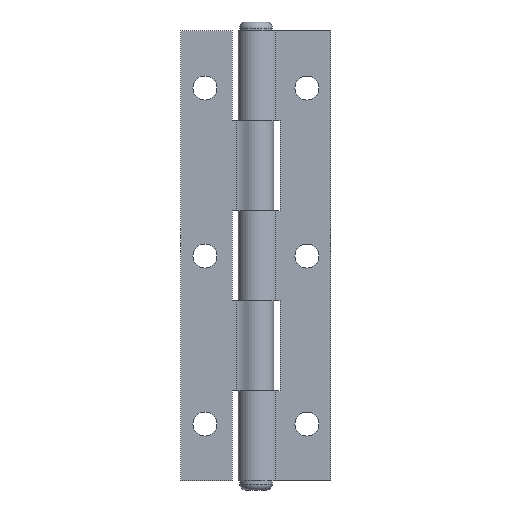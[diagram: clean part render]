
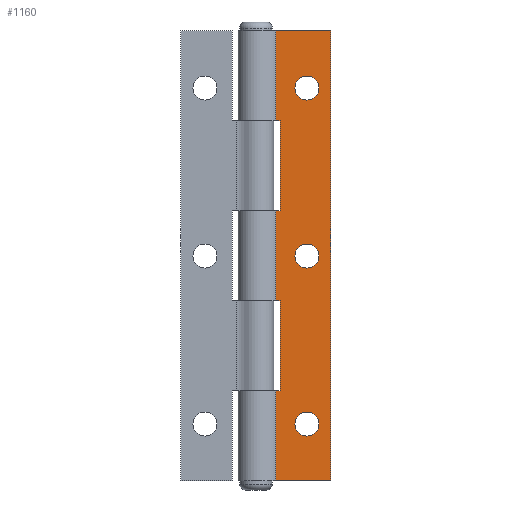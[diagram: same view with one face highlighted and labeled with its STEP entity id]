
A CAD part, front view. The second image highlights one B-rep face of the part: STEP entity #1160.
In plain terms, the highlighted planar face has unit normal (0, -1, 0).
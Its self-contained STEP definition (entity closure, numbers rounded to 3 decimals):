
#39=FACE_BOUND('',#203,.T.);
#40=FACE_BOUND('',#204,.T.);
#41=FACE_BOUND('',#205,.T.);
#121=FACE_OUTER_BOUND('',#202,.T.);
#202=EDGE_LOOP('',(#956,#957,#958,#959,#960,#961,#962,#963,#964,#965,#966,
#967));
#203=EDGE_LOOP('',(#968));
#204=EDGE_LOOP('',(#969));
#205=EDGE_LOOP('',(#970));
#297=CIRCLE('',#1275,2.);
#298=CIRCLE('',#1276,2.);
#299=CIRCLE('',#1277,2.);
#366=LINE('',#1848,#458);
#370=LINE('',#1864,#462);
#373=LINE('',#1870,#465);
#376=LINE('',#1885,#468);
#380=LINE('',#1902,#472);
#384=LINE('',#1917,#476);
#386=LINE('',#1920,#478);
#387=LINE('',#1922,#479);
#388=LINE('',#1924,#480);
#389=LINE('',#1926,#481);
#390=LINE('',#1928,#482);
#391=LINE('',#1929,#483);
#458=VECTOR('',#1488,0.683);
#462=VECTOR('',#1502,15.);
#465=VECTOR('',#1507,0.683);
#468=VECTOR('',#1520,0.683);
#472=VECTOR('',#1534,0.683);
#476=VECTOR('',#1548,15.);
#478=VECTOR('',#1552,15.);
#479=VECTOR('',#1553,15.);
#480=VECTOR('',#1554,9.183);
#481=VECTOR('',#1555,75.);
#482=VECTOR('',#1556,9.183);
#483=VECTOR('',#1557,15.);
#555=VERTEX_POINT('',#1846);
#556=VERTEX_POINT('',#1847);
#563=VERTEX_POINT('',#1863);
#565=VERTEX_POINT('',#1869);
#571=VERTEX_POINT('',#1883);
#572=VERTEX_POINT('',#1884);
#579=VERTEX_POINT('',#1900);
#580=VERTEX_POINT('',#1901);
#587=VERTEX_POINT('',#1921);
#588=VERTEX_POINT('',#1923);
#589=VERTEX_POINT('',#1925);
#590=VERTEX_POINT('',#1927);
#591=VERTEX_POINT('',#1930);
#592=VERTEX_POINT('',#1932);
#593=VERTEX_POINT('',#1934);
#689=EDGE_CURVE('',#555,#556,#366,.T.);
#697=EDGE_CURVE('',#563,#555,#370,.T.);
#700=EDGE_CURVE('',#565,#563,#373,.T.);
#707=EDGE_CURVE('',#571,#572,#376,.T.);
#715=EDGE_CURVE('',#579,#580,#380,.T.);
#723=EDGE_CURVE('',#580,#571,#384,.T.);
#725=EDGE_CURVE('',#556,#579,#386,.T.);
#726=EDGE_CURVE('',#572,#587,#387,.T.);
#727=EDGE_CURVE('',#587,#588,#388,.T.);
#728=EDGE_CURVE('',#588,#589,#389,.T.);
#729=EDGE_CURVE('',#589,#590,#390,.T.);
#730=EDGE_CURVE('',#590,#565,#391,.T.);
#731=EDGE_CURVE('',#591,#591,#297,.T.);
#732=EDGE_CURVE('',#592,#592,#298,.T.);
#733=EDGE_CURVE('',#593,#593,#299,.T.);
#956=ORIENTED_EDGE('',*,*,#700,.T.);
#957=ORIENTED_EDGE('',*,*,#697,.T.);
#958=ORIENTED_EDGE('',*,*,#689,.T.);
#959=ORIENTED_EDGE('',*,*,#725,.T.);
#960=ORIENTED_EDGE('',*,*,#715,.T.);
#961=ORIENTED_EDGE('',*,*,#723,.T.);
#962=ORIENTED_EDGE('',*,*,#707,.T.);
#963=ORIENTED_EDGE('',*,*,#726,.T.);
#964=ORIENTED_EDGE('',*,*,#727,.T.);
#965=ORIENTED_EDGE('',*,*,#728,.T.);
#966=ORIENTED_EDGE('',*,*,#729,.T.);
#967=ORIENTED_EDGE('',*,*,#730,.T.);
#968=ORIENTED_EDGE('',*,*,#731,.F.);
#969=ORIENTED_EDGE('',*,*,#732,.F.);
#970=ORIENTED_EDGE('',*,*,#733,.F.);
#1114=PLANE('',#1274);
#1160=ADVANCED_FACE('',(#121,#39,#40,#41),#1114,.F.);
#1274=AXIS2_PLACEMENT_3D('',#1919,#1550,#1551);
#1275=AXIS2_PLACEMENT_3D('',#1931,#1558,#1559);
#1276=AXIS2_PLACEMENT_3D('',#1933,#1560,#1561);
#1277=AXIS2_PLACEMENT_3D('',#1935,#1562,#1563);
#1488=DIRECTION('',(-1.,0.,0.));
#1502=DIRECTION('',(0.,0.,-1.));
#1507=DIRECTION('',(1.,0.,0.));
#1520=DIRECTION('',(-1.,0.,0.));
#1534=DIRECTION('',(1.,0.,0.));
#1548=DIRECTION('',(0.,0.,-1.));
#1550=DIRECTION('center_axis',(0.,1.,0.));
#1551=DIRECTION('ref_axis',(-1.,0.,0.));
#1552=DIRECTION('',(0.,0.,-1.));
#1553=DIRECTION('',(0.,0.,-1.));
#1554=DIRECTION('',(1.,0.,0.));
#1555=DIRECTION('',(0.,0.,1.));
#1556=DIRECTION('',(-1.,0.,0.));
#1557=DIRECTION('',(0.,0.,-1.));
#1558=DIRECTION('center_axis',(0.,-1.,0.));
#1559=DIRECTION('ref_axis',(-1.,0.,0.));
#1560=DIRECTION('center_axis',(0.,-1.,0.));
#1561=DIRECTION('ref_axis',(-1.,0.,0.));
#1562=DIRECTION('center_axis',(0.,-1.,0.));
#1563=DIRECTION('ref_axis',(-1.,0.,0.));
#1846=CARTESIAN_POINT('',(4.,-2.,7.5));
#1847=CARTESIAN_POINT('',(3.317,-2.,7.5));
#1848=CARTESIAN_POINT('',(4.25,-2.,7.5));
#1863=CARTESIAN_POINT('',(4.,-2.,22.5));
#1864=CARTESIAN_POINT('',(4.,-2.,3.75));
#1869=CARTESIAN_POINT('',(3.317,-2.,22.5));
#1870=CARTESIAN_POINT('',(8.25,-2.,22.5));
#1883=CARTESIAN_POINT('',(4.,-2.,-22.5));
#1884=CARTESIAN_POINT('',(3.317,-2.,-22.5));
#1885=CARTESIAN_POINT('',(4.25,-2.,-22.5));
#1900=CARTESIAN_POINT('',(3.317,-2.,-7.5));
#1901=CARTESIAN_POINT('',(4.,-2.,-7.5));
#1902=CARTESIAN_POINT('',(8.25,-2.,-7.5));
#1917=CARTESIAN_POINT('',(4.,-2.,-11.25));
#1919=CARTESIAN_POINT('Origin',(12.5,-2.,0.));
#1920=CARTESIAN_POINT('',(3.317,-2.,0.));
#1921=CARTESIAN_POINT('',(3.317,-2.,-37.5));
#1922=CARTESIAN_POINT('',(3.317,-2.,0.));
#1923=CARTESIAN_POINT('',(12.5,-2.,-37.5));
#1924=CARTESIAN_POINT('',(12.5,-2.,-37.5));
#1925=CARTESIAN_POINT('',(12.5,-2.,37.5));
#1926=CARTESIAN_POINT('',(12.5,-2.,0.));
#1927=CARTESIAN_POINT('',(3.317,-2.,37.5));
#1928=CARTESIAN_POINT('',(12.5,-2.,37.5));
#1929=CARTESIAN_POINT('',(3.317,-2.,0.));
#1930=CARTESIAN_POINT('',(10.5,-2.,-28.));
#1931=CARTESIAN_POINT('Origin',(8.5,-2.,-28.));
#1932=CARTESIAN_POINT('',(10.5,-2.,28.));
#1933=CARTESIAN_POINT('Origin',(8.5,-2.,28.));
#1934=CARTESIAN_POINT('',(10.5,-2.,0.));
#1935=CARTESIAN_POINT('Origin',(8.5,-2.,0.));
